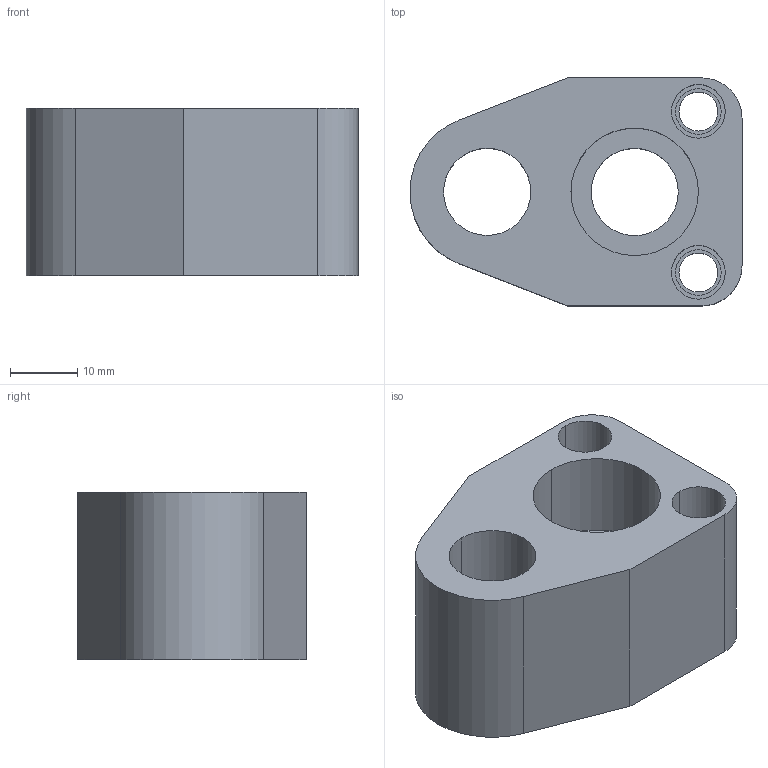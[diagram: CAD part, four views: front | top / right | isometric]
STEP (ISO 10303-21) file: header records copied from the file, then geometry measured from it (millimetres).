
FILE_DESCRIPTION(/* description */ (''),/* implementation_level */ '2;1');
FILE_NAME(/* name */ '3d_tp-asn13_05673_r00.stp',/* time_stamp */ '2011-01-10T14:09:00+09:00',/* author */ ('MISUMI'),/* organization */ (''),/* preprocessor_version */ 'ST-DEVELOPER v11',/* originating_system */ 'UGS - NX 5.0',/* authorisation */ '');
FILE_SCHEMA (('CONFIG_CONTROL_DESIGN'));
Length unit declared in the file: millimetre
Products named in the file (1): 3d_tp-asn13_05673_r00
Bounding box: 49.5 x 34 x 25 mm (x, y, z)
Volume: 24759.7 mm3; surface area: 9243.3 mm2
Topology: 1 solids, 1 shells, 38 faces, 88 edges, 58 vertices
Faces by surface type: cylinder 23, plane 13, cone 2
Entity records: 1206 total; most frequent: DIRECTION 214, CARTESIAN_POINT 185, ORIENTED_EDGE 176, EDGE_CURVE 88, AXIS2_PLACEMENT_3D 87, VERTEX_POINT 58, EDGE_LOOP 52, CIRCLE 48
